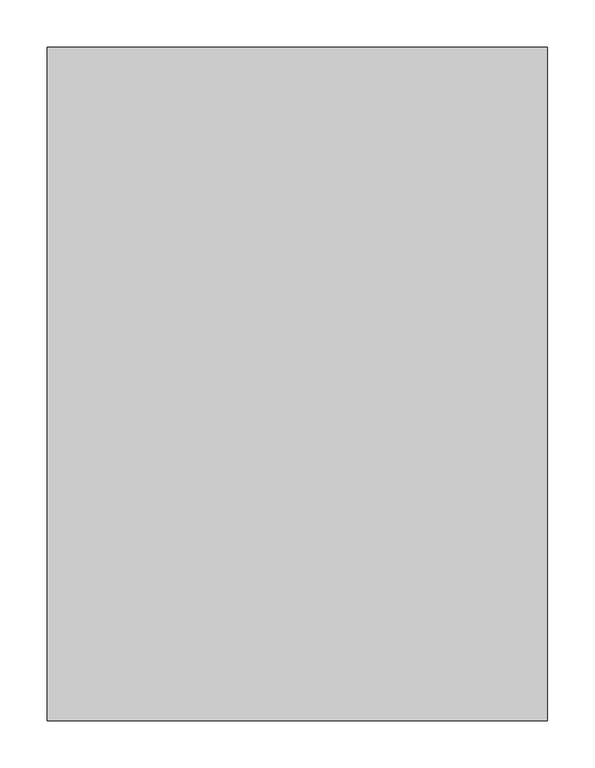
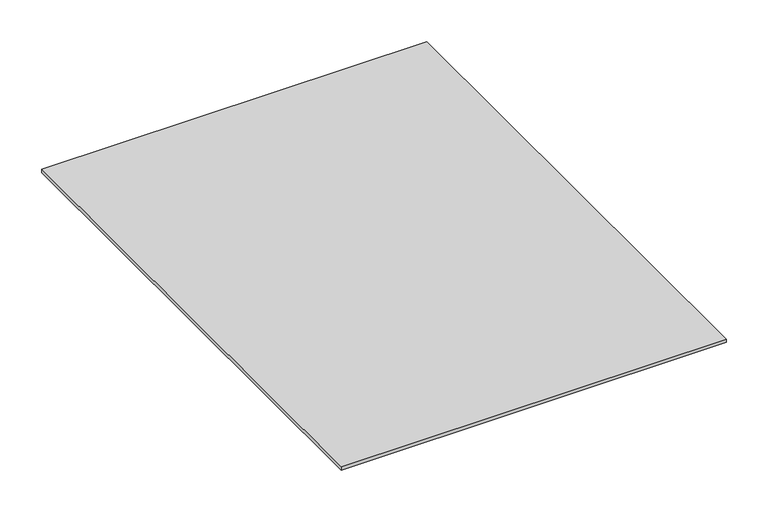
"""IFC4 building model written with IfcOpenShell, lengths in millimetres: valve geometry, Superpipe Manifold Cabinet door : Superpipe Manifold Cabinet door-4&5Way."""

from ifc_helpers import new_model, si_unit, origin, origin_with_axes, place, context, project, spatial, polyline, outline, extrude, source, transform, mapped, element, save


def valve_7eb98000(model_context):
    return source(origin(), model_context, "Body", "SweptSolid", [
        extrude(outline(polyline([(265.0, 356.5), (265.0, -356.5), (-265.0, -356.5), (-265.0, 356.5), (265.0, 356.5)])), origin_with_axes(), (0.0, 0.0, 1.0), 5.0),
    ])


if __name__ == "__main__":
    model = new_model("IFC4")
    model_context = context("Model", 3, world=origin())
    ifc_project = project(units=[si_unit("LENGTHUNIT", "METRE", prefix="MILLI")], contexts=[model_context])
    site = spatial("IfcSite", under=ifc_project)
    building = spatial("IfcBuilding", under=site)
    placement = place(None, origin())
    valve_shape = valve_7eb98000(model_context)
    element("IfcValve", 1, ObjectType="Superpipe Manifold Cabinet door : Superpipe Manifold Cabinet door-4&5Way", at=placement, inside=building, context=model_context, shape_type="MappedRepresentation", body=[
        mapped(valve_shape, transform((0.0, 0.0, 0.0), x_axis=(1.0, 0.0, 0.0), y_axis=(0.0, 1.0, 0.0), z_axis=(0.0, 0.0, 1.0))),
    ])
    save(model, "model.ifc")
